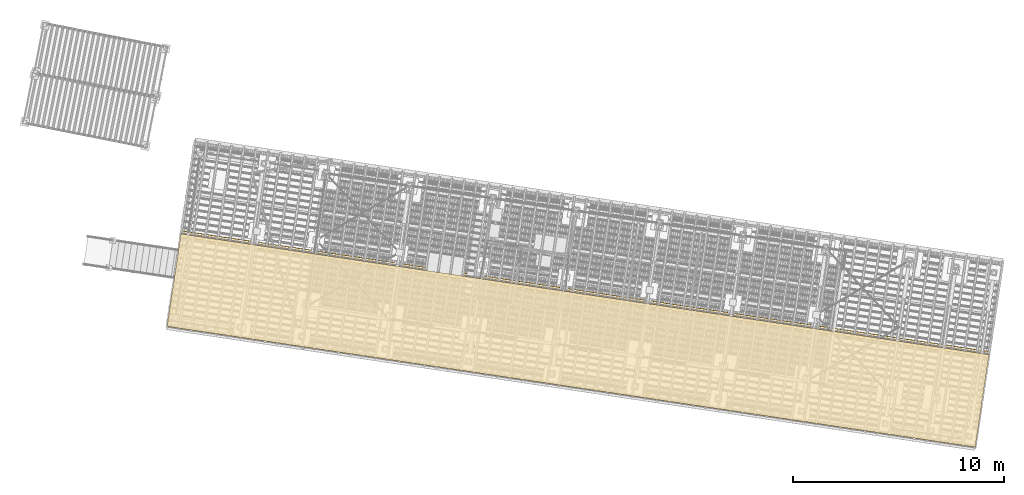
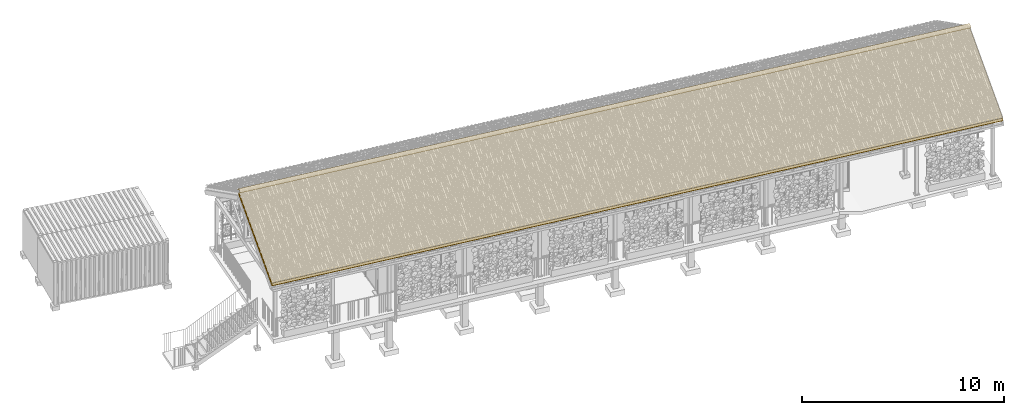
# One storey, part 127 of 131: 4 coverings, 1 element without a shape of its own.
"""IFC4 building model written with IfcOpenShell, lengths in metres."""

from ifc_helpers import new_model, si_unit, direction, frame, origin_with_axes, place, context, subcontext, project, spatial, polyline, outline, extrude, material, element, aggregate, save


model = new_model("IFC4")

# Units and contexts
model_context = context("Model", 3, precision=1e-05, world=origin_with_axes(), true_north=direction((0.0, 1.0)))
body_context = subcontext(model_context, "Body", "Model", "MODEL_VIEW")
ifc_project = project(units=[si_unit("VOLUMEUNIT", "CUBIC_METRE"), si_unit("LENGTHUNIT", "METRE"), si_unit("AREAUNIT", "SQUARE_METRE")], contexts=[model_context])

# Site, building, storey
site_placement = place(None, origin_with_axes())
site = spatial("IfcSite", under=ifc_project, at=site_placement, Name="Lares · Rua das Mercês · artigo 4771")
building_placement = place(site_placement, frame((15.0, 9.7, 14.65), z_axis=(0.0, 0.0, 1.0), x_axis=(0.989015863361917, -0.147809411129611, 0.0)))
building = spatial("IfcBuilding", under=site, at=building_placement, Name="Casa Sobreposta")
storey_placement = place(building_placement, origin_with_axes())
storey = spatial("IfcBuildingStorey", under=building, at=storey_placement, Name="00 · Habitação e estacionamento", Elevation=14.65)

# Roof, coverings
ifc_material_1 = material(Name="Madeira / Bauholz", Category="wood")
roof_placement = place(storey_placement, origin_with_axes())
roof = element("IfcRoof", 1, at=roof_placement, inside=storey, material=ifc_material_1, Name="Cobertura de telha · duas águas 30 graus", PredefinedType="GABLE_ROOF")
covering_1_placement = place(roof_placement, frame((-6.4, 0.0, 0.0), z_axis=(1.0, 0.0, 0.0), x_axis=(0.0, 1.0, 0.0)))
covering_1 = element("IfcCovering", 2, at=covering_1_placement, material=ifc_material_1, Name="Cobertura · forro de madeira", PredefinedType="CLADDING", context=body_context, shape_type="SweptSolid", body=[
    extrude(outline(polyline([(-1.9, 3.32), (2.55, 5.88920869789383), (2.55, 5.90920869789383), (-1.9, 3.34), (-1.9, 3.32)])), origin_with_axes(), (0.0, 0.0, 1.0), 38.8),
])
ifc_material_2 = material(Name="Lã mineral / Mineralwolle 2", Category="mineral wool")
covering_2_placement = place(roof_placement, frame((-6.4, 0.0, 0.0), z_axis=(1.0, 0.0, 0.0), x_axis=(0.0, 1.0, 0.0)))
covering_2 = element("IfcCovering", 3, at=covering_2_placement, material=ifc_material_2, Name="Cobertura · isolamento", PredefinedType="INSULATION", context=body_context, shape_type="SweptSolid", body=[
    extrude(outline(polyline([(-1.9, 3.34), (2.55, 5.90920869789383), (2.55, 6.06920869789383), (-1.9, 3.5), (-1.9, 3.34)])), origin_with_axes(), (0.0, 0.0, 1.0), 38.8),
])
ifc_material_3 = material(Name="Membrana impermeável — hipótese", Category="membrane")
covering_3_placement = place(roof_placement, frame((-6.4, 0.0, 0.0), z_axis=(1.0, 0.0, 0.0), x_axis=(0.0, 1.0, 0.0)))
covering_3 = element("IfcCovering", 4, at=covering_3_placement, material=ifc_material_3, Name="Cobertura · membrana", PredefinedType="MEMBRANE", context=body_context, shape_type="SweptSolid", body=[
    extrude(outline(polyline([(-1.9, 3.5), (2.55, 6.06920869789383), (2.55, 6.07320869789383), (-1.9, 3.504), (-1.9, 3.5)])), origin_with_axes(), (0.0, 0.0, 1.0), 38.8),
])
ifc_material_4 = material(Name="Telha cerâmica · tile1", Category="clay")
covering_4_placement = place(roof_placement, frame((-6.4, 0.0, 0.0), z_axis=(1.0, 0.0, 0.0), x_axis=(0.0, 1.0, 0.0)))
covering_4 = element("IfcCovering", 5, at=covering_4_placement, material=ifc_material_4, Name="Cobertura · cumeeira cerâmica", PredefinedType="ROOFING", context=body_context, shape_type="SweptSolid", body=[
    extrude(outline(polyline([(2.7, 6.12420869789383), (2.69392394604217, 6.16646858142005), (2.67618802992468, 6.20530482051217), (2.64822911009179, 6.23757113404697), (2.61231225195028, 6.26065349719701), (2.57134722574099, 6.27268191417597), (2.52865277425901, 6.27268191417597), (2.48768774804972, 6.26065349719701), (2.45177088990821, 6.23757113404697), (2.42381197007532, 6.20530482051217), (2.40607605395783, 6.16646858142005), (2.4, 6.12420869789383), (2.415, 6.12420869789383), (2.42046844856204, 6.16224259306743), (2.43643077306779, 6.19719520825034), (2.46159380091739, 6.22623489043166), (2.49391897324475, 6.24700901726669), (2.53078749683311, 6.25783459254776), (2.56921250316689, 6.25783459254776), (2.60608102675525, 6.24700901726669), (2.63840619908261, 6.22623489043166), (2.66356922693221, 6.19719520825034), (2.67953155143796, 6.16224259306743), (2.685, 6.12420869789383), (2.7, 6.12420869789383)])), origin_with_axes(), (0.0, 0.0, 1.0), 38.8),
])
aggregate(roof, [covering_1, covering_2, covering_3, covering_4])

save(model, "model.ifc")
